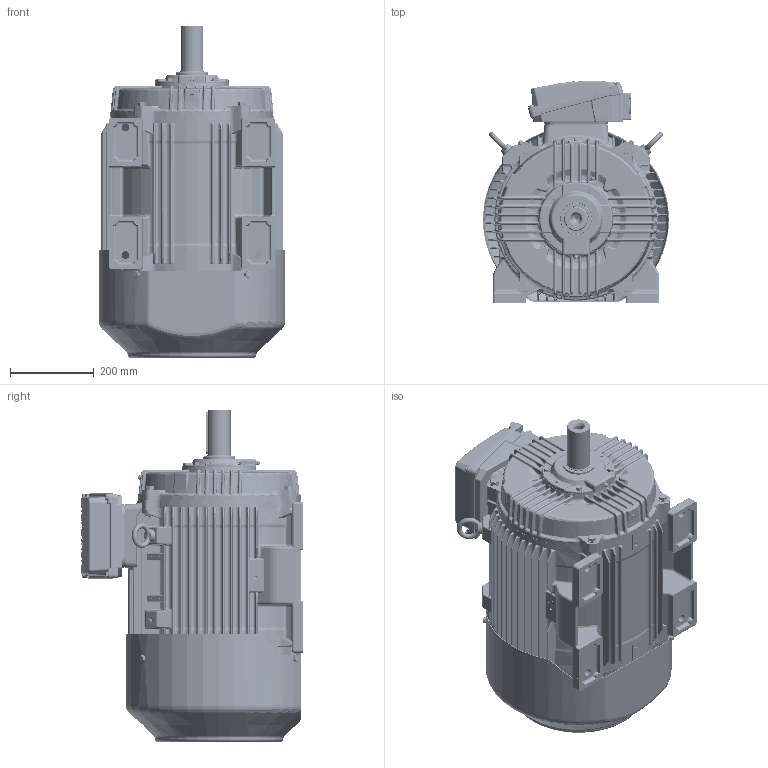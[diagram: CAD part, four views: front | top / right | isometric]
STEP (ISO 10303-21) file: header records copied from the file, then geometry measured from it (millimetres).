
FILE_DESCRIPTION (( 'STEP AP203' ), '1' );
FILE_NAME ('0220000354_RevB.STEP', '2023-04-27T05:55:57', ( '' ), ( '' ), 'SwSTEP 2.0', 'SolidWorks 2021', '' );
FILE_SCHEMA (( 'CONFIG_CONTROL_DESIGN' ));
Length unit declared in the file: inch
Products named in the file (1): 0220000354_RevB
Bounding box: 446 x 529.4 x 794 mm (x, y, z)
Volume: 16690153.1 mm3; surface area: 4191440.7 mm2
Topology: 66 solids, 66 shells, 11327 faces, 28238 edges, 16852 vertices
Faces by surface type: cylinder 3460, bspline 2943, plane 2224, torus 1200, cone 1073, sphere 427
Entity records: 439611 total; most frequent: CARTESIAN_POINT 191772, ORIENTED_EDGE 55716, DIRECTION 48401, EDGE_CURVE 27858, AXIS2_PLACEMENT_3D 20115, VERTEX_POINT 16800, EDGE_LOOP 12260, CIRCLE 11730
